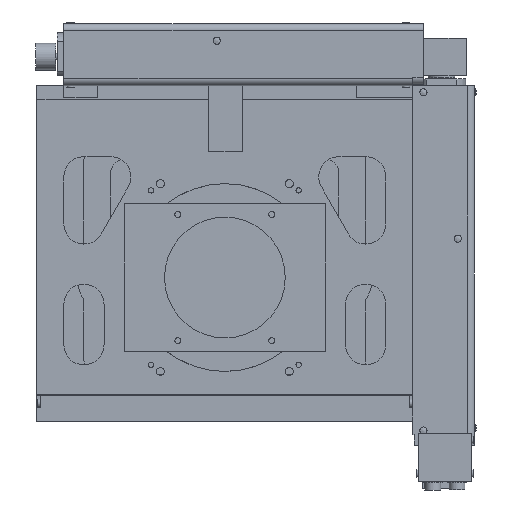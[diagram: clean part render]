
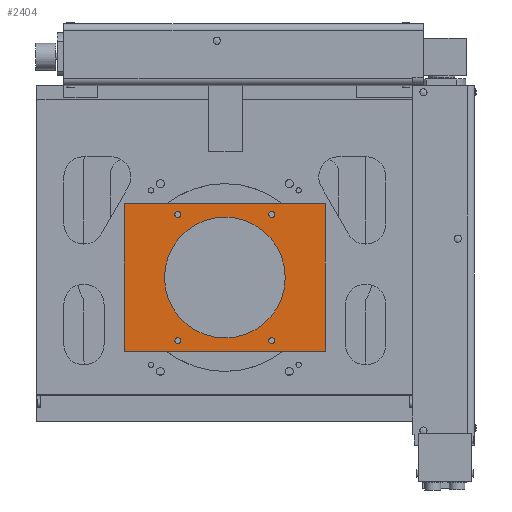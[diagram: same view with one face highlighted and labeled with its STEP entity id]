
A CAD part, front view. The second image highlights one B-rep face of the part: STEP entity #2404.
In plain terms, the highlighted planar face has unit normal (0, -1, 0).
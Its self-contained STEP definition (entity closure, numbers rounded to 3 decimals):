
#915 = EDGE_LOOP ( 'NONE', ( #18873, #18874 ) ) ;
#929 = EDGE_LOOP ( 'NONE', ( #18881, #18882 ) ) ;
#931 = EDGE_LOOP ( 'NONE', ( #18877, #18878 ) ) ;
#932 = EDGE_LOOP ( 'NONE', ( #18879, #18880 ) ) ;
#935 = EDGE_LOOP ( 'NONE', ( #18875, #18876 ) ) ;
#937 = EDGE_LOOP ( 'NONE', ( #18883, #18884, #18885, #18886 ) ) ;
#2404 = ADVANCED_FACE ( 'NONE', ( #8176, #8172, #8179, #8181, #8175, #8177 ), #8183, .T. ) ;
#5322 = VERTEX_POINT ( 'NONE', #9044 ) ;
#8172 = FACE_BOUND ( 'NONE', #935, .T. ) ;
#8175 = FACE_BOUND ( 'NONE', #929, .T. ) ;
#8176 = FACE_BOUND ( 'NONE', #915, .T. ) ;
#8177 = FACE_OUTER_BOUND ( 'NONE', #937, .T. ) ;
#8179 = FACE_BOUND ( 'NONE', #931, .T. ) ;
#8180 = CARTESIAN_POINT ( 'NONE',  ( -75., -8., -55. ) ) ;
#8181 = FACE_BOUND ( 'NONE', #932, .T. ) ;
#8183 = PLANE ( 'NONE',  #20290 ) ;
#8184 = DIRECTION ( 'NONE',  ( 0., -1., 0. ) ) ;
#8185 = DIRECTION ( 'NONE',  ( 0., 0., -1. ) ) ;
#9044 = CARTESIAN_POINT ( 'NONE',  ( -75., -8., -55. ) ) ;
#11435 = CARTESIAN_POINT ( 'NONE',  ( -35., -8., -47. ) ) ;
#11436 = DIRECTION ( 'NONE',  ( 0., 1., 0. ) ) ;
#11437 = DIRECTION ( 'NONE',  ( 0., 0., 1. ) ) ;
#11449 = CARTESIAN_POINT ( 'NONE',  ( 35., -8., -47. ) ) ;
#11450 = DIRECTION ( 'NONE',  ( 0., 1., 0. ) ) ;
#11451 = DIRECTION ( 'NONE',  ( 0., 0., 1. ) ) ;
#11462 = CARTESIAN_POINT ( 'NONE',  ( 35., -8., 47. ) ) ;
#11463 = DIRECTION ( 'NONE',  ( 0., 1., 0. ) ) ;
#11464 = DIRECTION ( 'NONE',  ( 0., 0., 1. ) ) ;
#11510 = CARTESIAN_POINT ( 'NONE',  ( 0., -8., 0. ) ) ;
#11511 = DIRECTION ( 'NONE',  ( 0., 1., 0. ) ) ;
#11512 = DIRECTION ( 'NONE',  ( 0., 0., 1. ) ) ;
#11518 = CARTESIAN_POINT ( 'NONE',  ( -35., -8., 47. ) ) ;
#11519 = DIRECTION ( 'NONE',  ( 0., 1., 0. ) ) ;
#11520 = DIRECTION ( 'NONE',  ( 0., 0., 1. ) ) ;
#11713 = CIRCLE ( 'NONE', #11714, 2.25 ) ;
#11714 = AXIS2_PLACEMENT_3D ( 'NONE', #11435, #11436, #11437 ) ;
#11718 = CIRCLE ( 'NONE', #11721, 2.25 ) ;
#11721 = AXIS2_PLACEMENT_3D ( 'NONE', #11449, #11450, #11451 ) ;
#11723 = CIRCLE ( 'NONE', #11728, 2.25 ) ;
#11728 = AXIS2_PLACEMENT_3D ( 'NONE', #11462, #11463, #11464 ) ;
#11751 = CIRCLE ( 'NONE', #11753, 45. ) ;
#11753 = AXIS2_PLACEMENT_3D ( 'NONE', #11510, #11511, #11512 ) ;
#11754 = CIRCLE ( 'NONE', #11757, 2.25 ) ;
#11757 = AXIS2_PLACEMENT_3D ( 'NONE', #11518, #11519, #11520 ) ;
#12070 = VECTOR ( 'NONE', #13670, 1000. ) ;
#12073 = VECTOR ( 'NONE', #13683, 1000. ) ;
#12074 = VECTOR ( 'NONE', #13678, 1000. ) ;
#12076 = VECTOR ( 'NONE', #13688, 1000. ) ;
#12090 = CIRCLE ( 'NONE', #12095, 45. ) ;
#12095 = AXIS2_PLACEMENT_3D ( 'NONE', #13712, #13713, #13714 ) ;
#12105 = CIRCLE ( 'NONE', #12108, 2.25 ) ;
#12107 = CIRCLE ( 'NONE', #12110, 2.25 ) ;
#12108 = AXIS2_PLACEMENT_3D ( 'NONE', #13734, #13735, #13736 ) ;
#12109 = CIRCLE ( 'NONE', #12112, 2.25 ) ;
#12110 = AXIS2_PLACEMENT_3D ( 'NONE', #13737, #13738, #13739 ) ;
#12111 = CIRCLE ( 'NONE', #12114, 2.25 ) ;
#12112 = AXIS2_PLACEMENT_3D ( 'NONE', #13740, #13741, #13742 ) ;
#12114 = AXIS2_PLACEMENT_3D ( 'NONE', #13743, #13744, #13745 ) ;
#13012 = CARTESIAN_POINT ( 'NONE',  ( 0., -8., 45. ) ) ;
#13092 = CARTESIAN_POINT ( 'NONE',  ( 75., -8., 55. ) ) ;
#13145 = CARTESIAN_POINT ( 'NONE',  ( 35., -8., -44.75 ) ) ;
#13147 = CARTESIAN_POINT ( 'NONE',  ( 0., -8., -45. ) ) ;
#13151 = CARTESIAN_POINT ( 'NONE',  ( -35., -8., 49.25 ) ) ;
#13153 = CARTESIAN_POINT ( 'NONE',  ( 35., -8., -49.25 ) ) ;
#13154 = CARTESIAN_POINT ( 'NONE',  ( -35., -8., 44.75 ) ) ;
#13157 = CARTESIAN_POINT ( 'NONE',  ( 35., -8., 44.75 ) ) ;
#13163 = CARTESIAN_POINT ( 'NONE',  ( 35., -8., 49.25 ) ) ;
#13168 = CARTESIAN_POINT ( 'NONE',  ( -35., -8., -44.75 ) ) ;
#13176 = CARTESIAN_POINT ( 'NONE',  ( -35., -8., -49.25 ) ) ;
#13177 = CARTESIAN_POINT ( 'NONE',  ( -75., -8., 55. ) ) ;
#13192 = CARTESIAN_POINT ( 'NONE',  ( 75., -8., -55. ) ) ;
#13656 = LINE ( 'NONE', #13668, #12070 ) ;
#13668 = CARTESIAN_POINT ( 'NONE',  ( -75., -8., 55. ) ) ;
#13669 = LINE ( 'NONE', #13682, #12073 ) ;
#13670 = DIRECTION ( 'NONE',  ( 1., 0., 0. ) ) ;
#13672 = LINE ( 'NONE', #13687, #12076 ) ;
#13676 = LINE ( 'NONE', #13677, #12074 ) ;
#13677 = CARTESIAN_POINT ( 'NONE',  ( 75., -8., 55. ) ) ;
#13678 = DIRECTION ( 'NONE',  ( 0., 0., -1. ) ) ;
#13682 = CARTESIAN_POINT ( 'NONE',  ( -75., -8., -55. ) ) ;
#13683 = DIRECTION ( 'NONE',  ( -1., 0., 0. ) ) ;
#13687 = CARTESIAN_POINT ( 'NONE',  ( -75., -8., 55. ) ) ;
#13688 = DIRECTION ( 'NONE',  ( 0., 0., 1. ) ) ;
#13712 = CARTESIAN_POINT ( 'NONE',  ( 0., -8., 0. ) ) ;
#13713 = DIRECTION ( 'NONE',  ( 0., 1., 0. ) ) ;
#13714 = DIRECTION ( 'NONE',  ( 0., 0., 1. ) ) ;
#13734 = CARTESIAN_POINT ( 'NONE',  ( 35., -8., -47. ) ) ;
#13735 = DIRECTION ( 'NONE',  ( 0., 1., 0. ) ) ;
#13736 = DIRECTION ( 'NONE',  ( 0., 0., 1. ) ) ;
#13737 = CARTESIAN_POINT ( 'NONE',  ( -35., -8., -47. ) ) ;
#13738 = DIRECTION ( 'NONE',  ( 0., 1., 0. ) ) ;
#13739 = DIRECTION ( 'NONE',  ( 0., 0., 1. ) ) ;
#13740 = CARTESIAN_POINT ( 'NONE',  ( -35., -8., 47. ) ) ;
#13741 = DIRECTION ( 'NONE',  ( 0., 1., 0. ) ) ;
#13742 = DIRECTION ( 'NONE',  ( 0., 0., 1. ) ) ;
#13743 = CARTESIAN_POINT ( 'NONE',  ( 35., -8., 47. ) ) ;
#13744 = DIRECTION ( 'NONE',  ( 0., 1., 0. ) ) ;
#13745 = DIRECTION ( 'NONE',  ( 0., 0., 1. ) ) ;
#15115 = EDGE_CURVE ( 'NONE', #18374, #18366, #11713, .T. ) ;
#15123 = EDGE_CURVE ( 'NONE', #18349, #18338, #11718, .T. ) ;
#15133 = EDGE_CURVE ( 'NONE', #18361, #18360, #11723, .T. ) ;
#15163 = EDGE_CURVE ( 'NONE', #18342, #18053, #11751, .T. ) ;
#15168 = EDGE_CURVE ( 'NONE', #18350, #18347, #11754, .T. ) ;
#18053 = VERTEX_POINT ( 'NONE', #13012 ) ;
#18215 = VERTEX_POINT ( 'NONE', #13092 ) ;
#18338 = VERTEX_POINT ( 'NONE', #13145 ) ;
#18342 = VERTEX_POINT ( 'NONE', #13147 ) ;
#18347 = VERTEX_POINT ( 'NONE', #13151 ) ;
#18349 = VERTEX_POINT ( 'NONE', #13153 ) ;
#18350 = VERTEX_POINT ( 'NONE', #13154 ) ;
#18360 = VERTEX_POINT ( 'NONE', #13163 ) ;
#18361 = VERTEX_POINT ( 'NONE', #13157 ) ;
#18366 = VERTEX_POINT ( 'NONE', #13168 ) ;
#18374 = VERTEX_POINT ( 'NONE', #13176 ) ;
#18376 = VERTEX_POINT ( 'NONE', #13177 ) ;
#18392 = VERTEX_POINT ( 'NONE', #13192 ) ;
#18873 = ORIENTED_EDGE ( 'NONE', *, *, #19245, .T. ) ;
#18874 = ORIENTED_EDGE ( 'NONE', *, *, #15123, .T. ) ;
#18875 = ORIENTED_EDGE ( 'NONE', *, *, #19246, .T. ) ;
#18876 = ORIENTED_EDGE ( 'NONE', *, *, #15115, .T. ) ;
#18877 = ORIENTED_EDGE ( 'NONE', *, *, #19247, .T. ) ;
#18878 = ORIENTED_EDGE ( 'NONE', *, *, #15168, .T. ) ;
#18879 = ORIENTED_EDGE ( 'NONE', *, *, #19248, .T. ) ;
#18880 = ORIENTED_EDGE ( 'NONE', *, *, #15133, .T. ) ;
#18881 = ORIENTED_EDGE ( 'NONE', *, *, #19237, .T. ) ;
#18882 = ORIENTED_EDGE ( 'NONE', *, *, #15163, .T. ) ;
#18883 = ORIENTED_EDGE ( 'NONE', *, *, #19229, .F. ) ;
#18884 = ORIENTED_EDGE ( 'NONE', *, *, #19227, .F. ) ;
#18885 = ORIENTED_EDGE ( 'NONE', *, *, #19225, .F. ) ;
#18886 = ORIENTED_EDGE ( 'NONE', *, *, #19222, .F. ) ;
#19222 = EDGE_CURVE ( 'NONE', #18376, #18215, #13656, .T. ) ;
#19225 = EDGE_CURVE ( 'NONE', #18215, #18392, #13676, .T. ) ;
#19227 = EDGE_CURVE ( 'NONE', #18392, #5322, #13669, .T. ) ;
#19229 = EDGE_CURVE ( 'NONE', #5322, #18376, #13672, .T. ) ;
#19237 = EDGE_CURVE ( 'NONE', #18053, #18342, #12090, .T. ) ;
#19245 = EDGE_CURVE ( 'NONE', #18338, #18349, #12105, .T. ) ;
#19246 = EDGE_CURVE ( 'NONE', #18366, #18374, #12107, .T. ) ;
#19247 = EDGE_CURVE ( 'NONE', #18347, #18350, #12109, .T. ) ;
#19248 = EDGE_CURVE ( 'NONE', #18360, #18361, #12111, .T. ) ;
#20290 = AXIS2_PLACEMENT_3D ( 'NONE', #8180, #8184, #8185 ) ;
